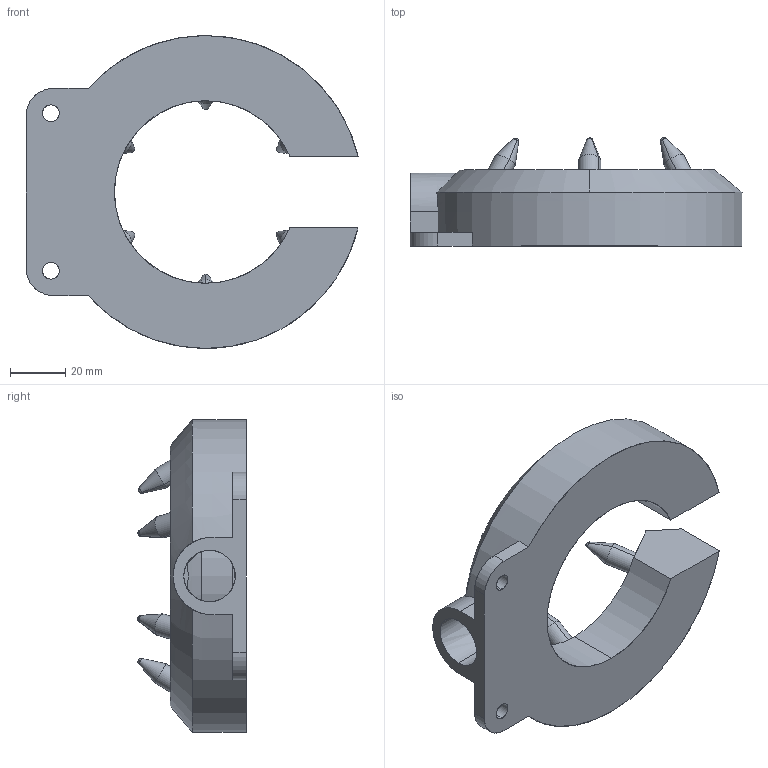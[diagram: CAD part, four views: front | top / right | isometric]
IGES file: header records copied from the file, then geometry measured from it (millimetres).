
Start section: SolidWorks IGES file using analytic representation for surfaces
Global section: file name: G:\Silvent\Ritningar\Övrigt\IGES\Nya sedan 2007-05-11\Silvent 453.IGS; native system: SolidWorks 2006 by SolidWorks Corporation; preprocessor: SolidWorks 2006 by SolidWorks Corporation; author: SilvRaTi; date: 080111.090245; units: millimetre
Bounding box: 120.09 x 39.37 x 113.2 mm (x, y, z)
Surface area: 44625.6 mm2 (no closed solid volume)
Topology: 0 solids, 0 shells, 123 faces, 2224 edges, 2212 vertices
Faces by surface type: revolution 93, bspline 30
